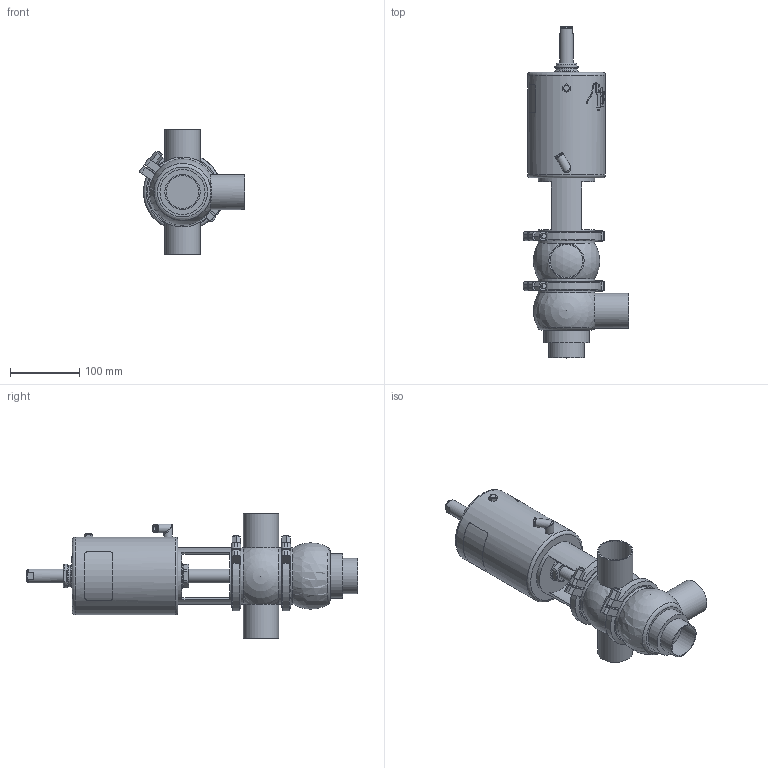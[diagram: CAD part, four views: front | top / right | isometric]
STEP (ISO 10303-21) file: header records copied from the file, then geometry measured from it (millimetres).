
FILE_DESCRIPTION (( 'STEP AP214' ), '1' );
FILE_NAME ('INNOVA K E W OD 2 T2 AS NC_10.240.16.0022.STEP', '2024-08-06T10:53:21', ( '' ), ( '' ), 'SwSTEP 2.0', 'SolidWorks 2023', '' );
FILE_SCHEMA (( 'AUTOMOTIVE_DESIGN' ));
Length unit declared in the file: millimetre
Products named in the file (6): 10.240.15.0014_T2 AS P0; 10.240.15.0010_DN 050; 10.240.15.0002_OD 2"; 10.240.15.0007_OD 2"; 10.240.15.0001_DN 050; INNOVA K E W OD 2 T2 AS NC_10.240.16.0022
Assembly tree (6 placements, depth 2):
  INNOVA K E W OD 2 T2 AS NC_10.240.16.0022
    10.240.15.0007_OD 2"
    10.240.15.0002_OD 2"
    10.240.15.0010_DN 050
    10.240.15.0014_T2 AS P0
    10.240.15.0001_DN 050  x2
Bounding box: 152.59 x 479 x 180 mm (x, y, z)
Volume: 2680815.5 mm3; surface area: 282246.7 mm2
Topology: 6 solids, 6 shells, 401 faces, 1051 edges, 687 vertices
Faces by surface type: plane 194, cylinder 91, bspline 80, cone 26, sphere 5, torus 5
Full cylindrical faces by diameter (mm): 6.15 x1, 8 x5, 8.5 x1, 10.5 x1, 12.5 x3, 16 x1, 20 x2, 31 x1, 34.5 x2, 36.5 x1, 47.5 x4, 50.8 x4, 65 x1, 81 x4, 93 x4, 112.5 x1
Entity records: 20750 total; most frequent: CARTESIAN_POINT 11402, ORIENTED_EDGE 1626, DIRECTION 1261, EDGE_CURVE 813, VERTEX_POINT 563, AXIS2_PLACEMENT_3D 486, EDGE_LOOP 430, FACE_OUTER_BOUND 384
